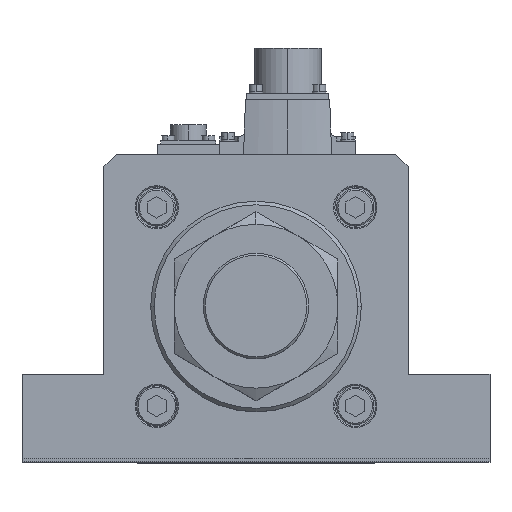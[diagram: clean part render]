
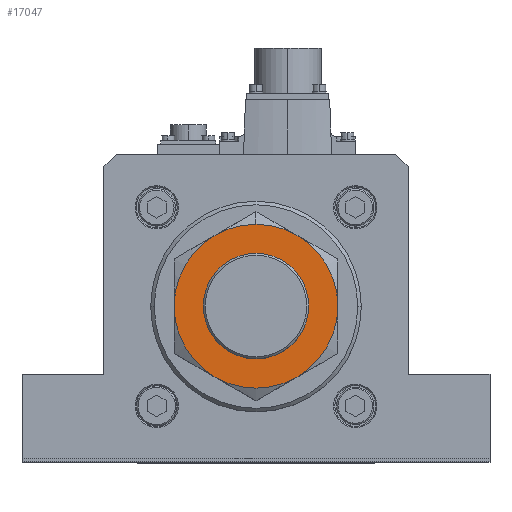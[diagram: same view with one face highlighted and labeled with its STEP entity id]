
A CAD part, top view. The second image highlights one B-rep face of the part: STEP entity #17047.
In plain terms, the highlighted planar face has unit normal (0, 0, 1).
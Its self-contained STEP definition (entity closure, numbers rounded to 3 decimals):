
#396 = DIRECTION ( 'NONE',  ( 0., 0., -1. ) ) ;
#1067 = DIRECTION ( 'NONE',  ( 0., 0., 1. ) ) ;
#2063 = EDGE_CURVE ( 'NONE', #17105, #13018, #14176, .T. ) ;
#2705 = AXIS2_PLACEMENT_3D ( 'NONE', #2880, #24200, #27417 ) ;
#2880 = CARTESIAN_POINT ( 'NONE',  ( 0., 0., 27. ) ) ;
#3018 = EDGE_CURVE ( 'NONE', #23922, #14370, #10289, .T. ) ;
#5651 = AXIS2_PLACEMENT_3D ( 'NONE', #31980, #28364, #10482 ) ;
#5785 = CARTESIAN_POINT ( 'NONE',  ( -22.5, 0., 27. ) ) ;
#5899 = EDGE_CURVE ( 'NONE', #14370, #25366, #11507, .T. ) ;
#6855 = CARTESIAN_POINT ( 'NONE',  ( 0., 0., 27. ) ) ;
#6944 = CIRCLE ( 'NONE', #15358, 35. ) ;
#7758 = VERTEX_POINT ( 'NONE', #5785 ) ;
#7767 = FACE_OUTER_BOUND ( 'NONE', #20125, .T. ) ;
#7771 = ORIENTED_EDGE ( 'NONE', *, *, #5899, .F. ) ;
#8035 = CARTESIAN_POINT ( 'NONE',  ( 35., 0., 27. ) ) ;
#8348 = ORIENTED_EDGE ( 'NONE', *, *, #3018, .F. ) ;
#8670 = ORIENTED_EDGE ( 'NONE', *, *, #19393, .F. ) ;
#9350 = VERTEX_POINT ( 'NONE', #31704 ) ;
#9412 = CARTESIAN_POINT ( 'NONE',  ( 0., 0., 27. ) ) ;
#10289 = CIRCLE ( 'NONE', #23521, 35. ) ;
#10455 = ORIENTED_EDGE ( 'NONE', *, *, #27419, .F. ) ;
#10482 = DIRECTION ( 'NONE',  ( 0., 1., 0. ) ) ;
#11507 = CIRCLE ( 'NONE', #29634, 35. ) ;
#12682 = CIRCLE ( 'NONE', #5651, 35. ) ;
#13018 = VERTEX_POINT ( 'NONE', #39149 ) ;
#13828 = CIRCLE ( 'NONE', #25501, 35. ) ;
#13861 = CIRCLE ( 'NONE', #2705, 22.5 ) ;
#14176 = CIRCLE ( 'NONE', #17824, 35. ) ;
#14370 = VERTEX_POINT ( 'NONE', #37366 ) ;
#15160 = DIRECTION ( 'NONE',  ( 0., 0., 1. ) ) ;
#15303 = CIRCLE ( 'NONE', #24966, 22.5 ) ;
#15358 = AXIS2_PLACEMENT_3D ( 'NONE', #36997, #396, #24832 ) ;
#16335 = VERTEX_POINT ( 'NONE', #18367 ) ;
#17047 = ADVANCED_FACE ( 'NONE', ( #7767, #24937 ), #21396, .T. ) ;
#17105 = VERTEX_POINT ( 'NONE', #34373 ) ;
#17824 = AXIS2_PLACEMENT_3D ( 'NONE', #29420, #35588, #32506 ) ;
#18367 = CARTESIAN_POINT ( 'NONE',  ( 0., 35., 27. ) ) ;
#19165 = DIRECTION ( 'NONE',  ( 0., 0., -1. ) ) ;
#19393 = EDGE_CURVE ( 'NONE', #9350, #7758, #13861, .T. ) ;
#20125 = EDGE_LOOP ( 'NONE', ( #8348, #29934, #33078, #10455, #34904, #34768, #7771 ) ) ;
#21396 = PLANE ( 'NONE',  #39148 ) ;
#21883 = CARTESIAN_POINT ( 'NONE',  ( 17.5, 30.311, 27. ) ) ;
#22175 = DIRECTION ( 'NONE',  ( 0., 1., 0. ) ) ;
#22369 = CARTESIAN_POINT ( 'NONE',  ( 0., 0., 27. ) ) ;
#22420 = CARTESIAN_POINT ( 'NONE',  ( 0., 0., 27. ) ) ;
#22446 = DIRECTION ( 'NONE',  ( 0., 0., -1. ) ) ;
#22560 = DIRECTION ( 'NONE',  ( 1., 0., 0. ) ) ;
#23193 = DIRECTION ( 'NONE',  ( 0., 0., -1. ) ) ;
#23521 = AXIS2_PLACEMENT_3D ( 'NONE', #26794, #23193, #35767 ) ;
#23922 = VERTEX_POINT ( 'NONE', #8035 ) ;
#24200 = DIRECTION ( 'NONE',  ( 0., 0., 1. ) ) ;
#24632 = AXIS2_PLACEMENT_3D ( 'NONE', #34032, #37072, #30564 ) ;
#24832 = DIRECTION ( 'NONE',  ( 0., 1., 0. ) ) ;
#24937 = FACE_BOUND ( 'NONE', #35781, .T. ) ;
#24966 = AXIS2_PLACEMENT_3D ( 'NONE', #22420, #1067, #22560 ) ;
#25366 = VERTEX_POINT ( 'NONE', #39316 ) ;
#25501 = AXIS2_PLACEMENT_3D ( 'NONE', #22369, #19165, #34427 ) ;
#26794 = CARTESIAN_POINT ( 'NONE',  ( 0., 0., 27. ) ) ;
#27287 = DIRECTION ( 'NONE',  ( 1., 0., 0. ) ) ;
#27417 = DIRECTION ( 'NONE',  ( 1., 0., 0. ) ) ;
#27419 = EDGE_CURVE ( 'NONE', #13018, #16335, #35901, .T. ) ;
#27920 = ORIENTED_EDGE ( 'NONE', *, *, #35175, .F. ) ;
#28364 = DIRECTION ( 'NONE',  ( 0., 0., -1. ) ) ;
#29420 = CARTESIAN_POINT ( 'NONE',  ( 0., 0., 27. ) ) ;
#29634 = AXIS2_PLACEMENT_3D ( 'NONE', #6855, #22446, #22175 ) ;
#29742 = EDGE_CURVE ( 'NONE', #25366, #17105, #12682, .T. ) ;
#29934 = ORIENTED_EDGE ( 'NONE', *, *, #37948, .F. ) ;
#30564 = DIRECTION ( 'NONE',  ( 0., 1., 0. ) ) ;
#31704 = CARTESIAN_POINT ( 'NONE',  ( 22.5, 0., 27. ) ) ;
#31980 = CARTESIAN_POINT ( 'NONE',  ( 0., 0., 27. ) ) ;
#32506 = DIRECTION ( 'NONE',  ( 0., 1., 0. ) ) ;
#33078 = ORIENTED_EDGE ( 'NONE', *, *, #35749, .F. ) ;
#33359 = VERTEX_POINT ( 'NONE', #21883 ) ;
#34032 = CARTESIAN_POINT ( 'NONE',  ( 0., 0., 27. ) ) ;
#34373 = CARTESIAN_POINT ( 'NONE',  ( -35., 0., 27. ) ) ;
#34427 = DIRECTION ( 'NONE',  ( 0., 1., 0. ) ) ;
#34768 = ORIENTED_EDGE ( 'NONE', *, *, #29742, .F. ) ;
#34904 = ORIENTED_EDGE ( 'NONE', *, *, #2063, .F. ) ;
#35175 = EDGE_CURVE ( 'NONE', #7758, #9350, #15303, .T. ) ;
#35588 = DIRECTION ( 'NONE',  ( 0., 0., -1. ) ) ;
#35749 = EDGE_CURVE ( 'NONE', #16335, #33359, #13828, .T. ) ;
#35767 = DIRECTION ( 'NONE',  ( 0., 1., 0. ) ) ;
#35781 = EDGE_LOOP ( 'NONE', ( #27920, #8670 ) ) ;
#35901 = CIRCLE ( 'NONE', #24632, 35. ) ;
#36997 = CARTESIAN_POINT ( 'NONE',  ( 0., 0., 27. ) ) ;
#37072 = DIRECTION ( 'NONE',  ( 0., 0., -1. ) ) ;
#37366 = CARTESIAN_POINT ( 'NONE',  ( 17.5, -30.311, 27. ) ) ;
#37948 = EDGE_CURVE ( 'NONE', #33359, #23922, #6944, .T. ) ;
#39148 = AXIS2_PLACEMENT_3D ( 'NONE', #9412, #15160, #27287 ) ;
#39149 = CARTESIAN_POINT ( 'NONE',  ( -17.5, 30.311, 27. ) ) ;
#39316 = CARTESIAN_POINT ( 'NONE',  ( -17.5, -30.311, 27. ) ) ;
